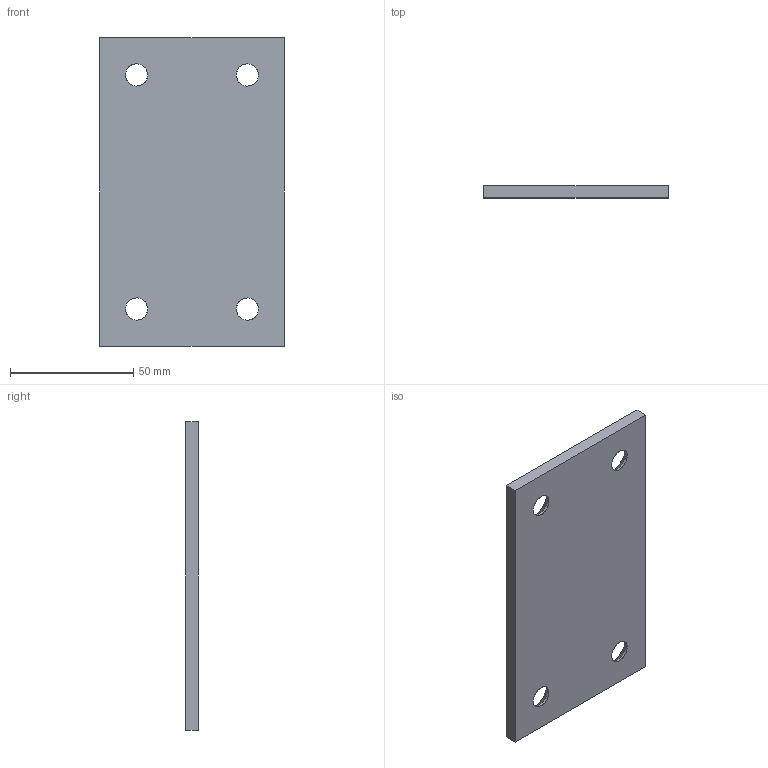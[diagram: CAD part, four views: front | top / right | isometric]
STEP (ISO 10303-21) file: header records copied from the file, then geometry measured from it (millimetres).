
FILE_DESCRIPTION(('CATIA V5 STEP Exchange'),'2;1');
FILE_NAME('C:\Users\Utente\Desktop\3D files A605\A605-075-125.stp','2020-04-13T15:43:14+00:00',('none'),('none'),'CATIA Version 5 Release 20 GA (IN-10)','CATIA V5 STEP AP203','none');
FILE_SCHEMA(('CONFIG_CONTROL_DESIGN'));
Length unit declared in the file: millimetre
Products named in the file (1): Noname
Bounding box: 75 x 5 x 125 mm (x, y, z)
Surface area: 20624.9 mm2 (no closed solid volume)
Topology: 0 solids, 14 shells, 22 faces, 88 edges, 72 vertices
Faces by surface type: cylinder 8, revolution 8, extrusion 6
Entity records: 1146 total; most frequent: CARTESIAN_POINT 405, ORIENTED_EDGE 104, DIRECTION 102, EDGE_CURVE 88, VERTEX_POINT 72, VECTOR 46, AXIS2_PLACEMENT_3D 41, LINE 40
